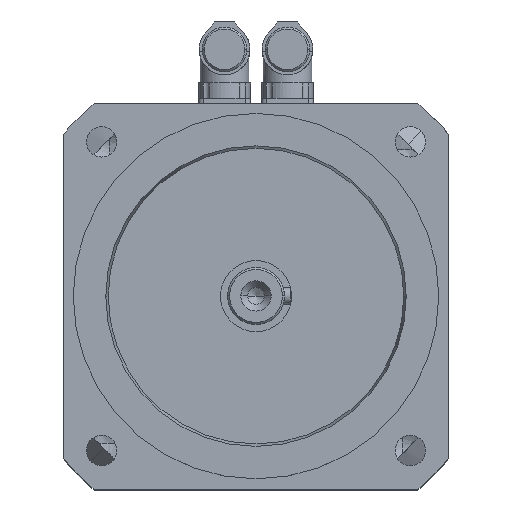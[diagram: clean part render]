
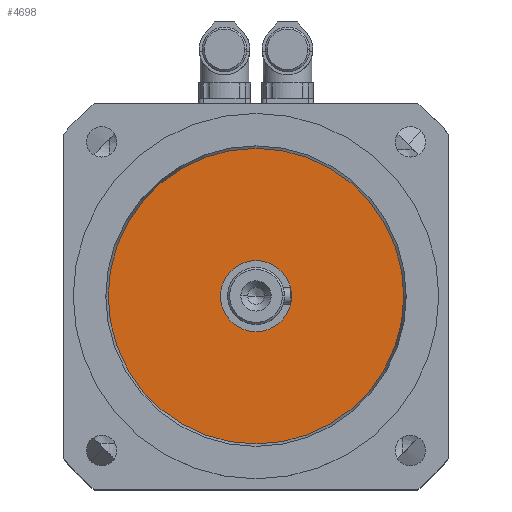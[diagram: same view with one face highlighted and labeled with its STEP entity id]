
A CAD part, top view. The second image highlights one B-rep face of the part: STEP entity #4698.
In plain terms, the highlighted planar face has unit normal (0, 0, 1).
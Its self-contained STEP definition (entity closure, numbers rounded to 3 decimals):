
#3573=CARTESIAN_POINT('',(-72.794,0.,320.5));
#3574=VERTEX_POINT('',#3573);
#3583=CARTESIAN_POINT('',(72.794,0.,320.5));
#3584=VERTEX_POINT('',#3583);
#3585=CARTESIAN_POINT('',(0.,0.0,320.5));
#3586=DIRECTION('',(0.0,0.0,1.0));
#3587=DIRECTION('',(-1.0,0.0,0.0));
#3588=AXIS2_PLACEMENT_3D('',#3585,#3586,#3587);
#3589=CIRCLE('',#3588,72.794);
#3590=EDGE_CURVE('',#3584,#3574,#3589,.T.);
#3835=CARTESIAN_POINT('',(-17.5,0.,320.5));
#3836=VERTEX_POINT('',#3835);
#3845=CARTESIAN_POINT('',(17.5,0.,320.5));
#3846=VERTEX_POINT('',#3845);
#3847=CARTESIAN_POINT('',(0.,0.0,320.5));
#3848=DIRECTION('',(0.0,0.0,-1.0));
#3849=DIRECTION('',(-1.0,0.0,0.0));
#3850=AXIS2_PLACEMENT_3D('',#3847,#3848,#3849);
#3851=CIRCLE('',#3850,17.5);
#3852=EDGE_CURVE('',#3846,#3836,#3851,.T.);
#4481=CARTESIAN_POINT('',(0.,0.0,320.5));
#4482=DIRECTION('',(0.0,0.0,-1.0));
#4483=DIRECTION('',(-1.0,0.0,0.0));
#4484=AXIS2_PLACEMENT_3D('',#4481,#4482,#4483);
#4485=CIRCLE('',#4484,17.5);
#4486=EDGE_CURVE('',#3836,#3846,#4485,.T.);
#4679=CARTESIAN_POINT('',(80.074,-80.074,320.5));
#4680=DIRECTION('',(0.0,0.0,-1.0));
#4681=DIRECTION('',(-1.0,0.0,0.0));
#4682=AXIS2_PLACEMENT_3D('',#4679,#4680,#4681);
#4683=PLANE('',#4682);
#4684=ORIENTED_EDGE('',*,*,#3590,.T.);
#4685=CARTESIAN_POINT('',(0.,0.0,320.5));
#4686=DIRECTION('',(0.0,0.0,1.0));
#4687=DIRECTION('',(-1.0,0.0,0.0));
#4688=AXIS2_PLACEMENT_3D('',#4685,#4686,#4687);
#4689=CIRCLE('',#4688,72.794);
#4690=EDGE_CURVE('',#3574,#3584,#4689,.T.);
#4691=ORIENTED_EDGE('',*,*,#4690,.T.);
#4692=EDGE_LOOP('',(#4684,#4691));
#4693=FACE_OUTER_BOUND('',#4692,.T.);
#4694=ORIENTED_EDGE('',*,*,#3852,.T.);
#4695=ORIENTED_EDGE('',*,*,#4486,.T.);
#4696=EDGE_LOOP('',(#4694,#4695));
#4697=FACE_BOUND('',#4696,.T.);
#4698=ADVANCED_FACE('',(#4693,#4697),#4683,.F.);
